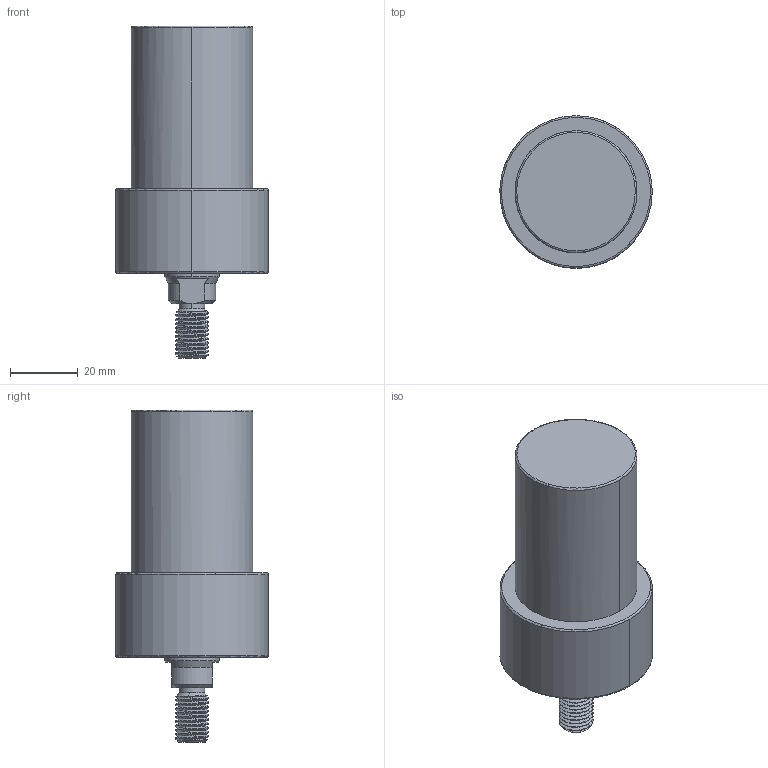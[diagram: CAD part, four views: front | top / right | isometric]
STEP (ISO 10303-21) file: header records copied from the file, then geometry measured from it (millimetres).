
FILE_DESCRIPTION((' '),'2;1');
FILE_NAME( 'TLLU-036GT-040.STEP.stp', '2025-10-24T16:37:07', (' '), ('--- Datakit www.datakit.com---'), ' Datakit CrossCadWare V2024.1 Dec 21 2023', 'Mastercam 2025', ' ');
FILE_SCHEMA(('AUTOMOTIVE_DESIGN { 1 0 10303 214 1 1 1 1 }'));
Length unit declared in the file: millimetre
Products named in the file (1): TLLU-036GT-040
Bounding box: 44.99 x 45 x 98 mm (x, y, z)
Volume: 90401.7 mm3; surface area: 13778.6 mm2
Topology: 1 solids, 1 shells, 88 faces, 295 edges, 210 vertices
Faces by surface type: cylinder 43, cone 26, plane 11, torus 6, bspline 2
Entity records: 8192 total; most frequent: CARTESIAN_POINT 5700, ORIENTED_EDGE 574, DIRECTION 470, EDGE_CURVE 287, VERTEX_POINT 210, AXIS2_PLACEMENT_3D 200, CIRCLE 113, B_SPLINE_CURVE_WITH_KNOTS 104
